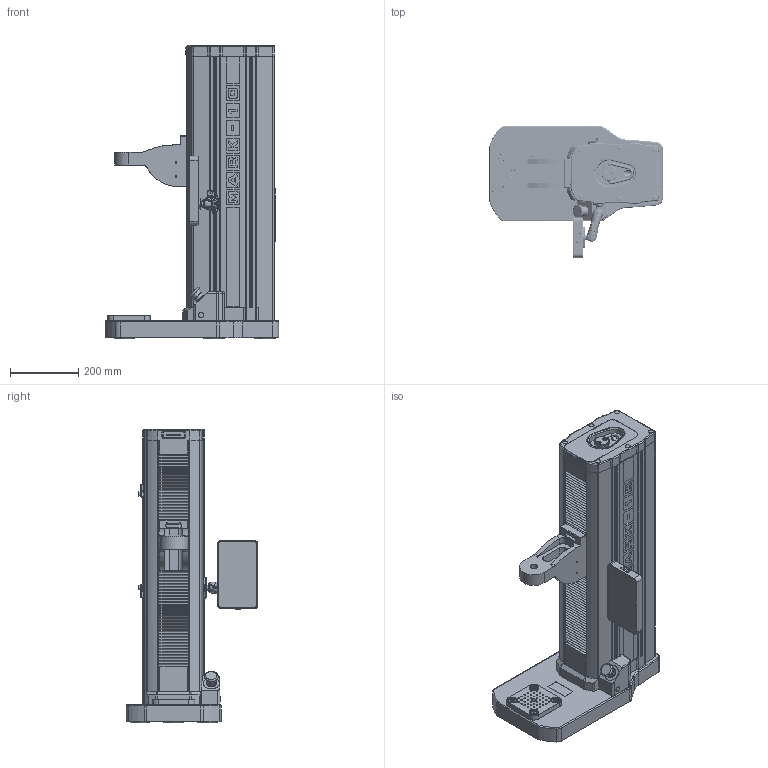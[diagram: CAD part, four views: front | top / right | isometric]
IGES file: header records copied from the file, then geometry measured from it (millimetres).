
Global section: file name: F1505S_EM; native system: Autodesk RealDWG; preprocessor: Autodesk Translation Framework DWG producer (atf_dwg_producer); organization: unknown; date: 20210205.152324; units: inch
Bounding box: 508 x 386.48 x 862.08 mm (x, y, z)
Volume: 41799036.7 mm3; surface area: 1852539.5 mm2
Topology: 6 solids, 14 shells, 8890 faces, 26365 edges, 18257 vertices
Faces by surface type: bspline 8890
